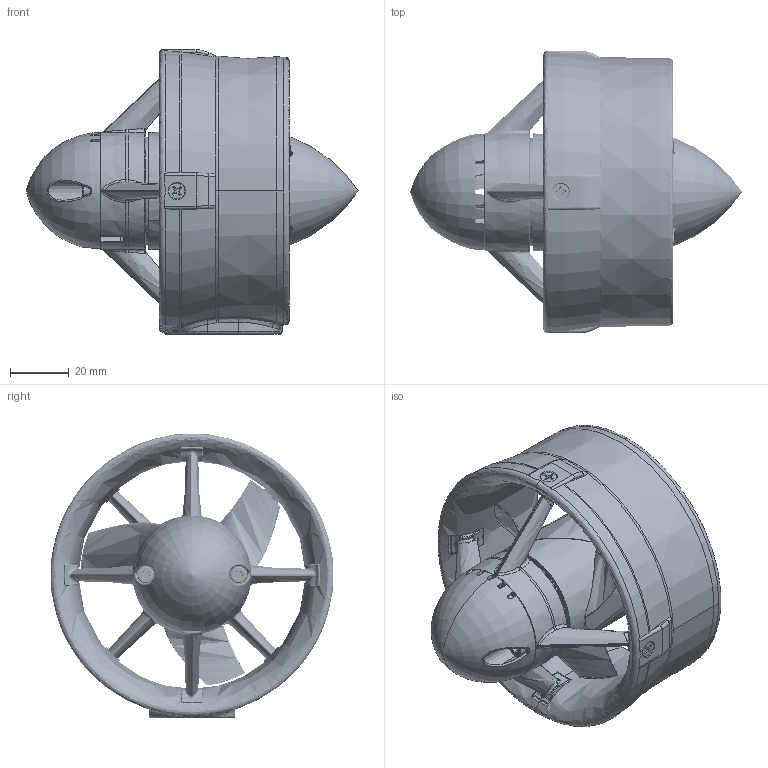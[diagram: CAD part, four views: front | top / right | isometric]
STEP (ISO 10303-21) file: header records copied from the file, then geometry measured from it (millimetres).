
FILE_DESCRIPTION (( 'STEP AP214' ), '1' );
FILE_NAME ('T200.STEP', '2025-01-17T21:16:17', ( '' ), ( '' ), 'SwSTEP 2.0', 'SolidWorks 2024', '' );
FILE_SCHEMA (( 'AUTOMOTIVE_DESIGN' ));
Length unit declared in the file: millimetre
Products named in the file (19): M3X0.5-5-SS316-BUTTON-HEAD-CAP-SCREW.STEP; T200-CORE_T200-CORE-STD.STEP; T200; T200-ELEC-WIRING-PCB-R3.STEP; T200-NOZZLE-0.STEP; T200-ASM-STATOR-POTTED-R1B.STEP; M3X0.5-8-SS316-SOCKET-HEAD-CAP-SCREW.STEP; M4X0.7-4-SS316-CUP-POINT-SET-SCREW_92029A140.STEP; T200 Overmold R1B.STEP; T200-ORING-STATOR-BASE_Public - 1.STEP; M6X1-8-SS316-HEX-THREADED-INSERT.STEP; THREADED-INSERT-M3X0.5-6-R1.STEP; M3X0.5-6-SS316-THREADED-INSERT.STEP; M3-12-SS316-FLAT-HEAD-PHILLIPS-SCREW_95844A250.STEP; T200.STEP; T200-NOZZLE.STEP; T200-ASM-STATOR-BASE-ORING_Pubilc .STEP; T200-NOSE-CONE.STEP; T200-P-PROPELLER-CW-R3_2xx.STEP
Assembly tree (26 placements, depth 5):
  T200
    T200.STEP
      T200-CORE_T200-CORE-STD.STEP
        T200-ASM-STATOR-BASE-ORING_Pubilc .STEP
          T200-ORING-STATOR-BASE_Public - 1.STEP
          THREADED-INSERT-M3X0.5-6-R1.STEP  x2
        T200-ASM-STATOR-POTTED-R1B.STEP
          T200 Overmold R1B.STEP
        T200-ELEC-WIRING-PCB-R3.STEP
      T200-NOZZLE.STEP
        T200-NOZZLE-0.STEP
        M3X0.5-6-SS316-THREADED-INSERT.STEP  x4
        M6X1-8-SS316-HEX-THREADED-INSERT.STEP
      T200-NOSE-CONE.STEP
      M4X0.7-4-SS316-CUP-POINT-SET-SCREW_92029A140.STEP
      T200-P-PROPELLER-CW-R3_2xx.STEP
      M3X0.5-5-SS316-BUTTON-HEAD-CAP-SCREW.STEP
      M3X0.5-8-SS316-SOCKET-HEAD-CAP-SCREW.STEP  x2
      M3-12-SS316-FLAT-HEAD-PHILLIPS-SCREW_95844A250.STEP  x4
Bounding box: 113.42 x 96.55 x 97.3 mm (x, y, z)
Volume: 172162 mm3; surface area: 77785.6 mm2
Topology: 21 solids, 23 shells, 3446 faces, 8867 edges, 5413 vertices
Faces by surface type: cylinder 1027, plane 875, bspline 709, cone 558, torus 213, sphere 64
Entity records: 124738 total; most frequent: CARTESIAN_POINT 73833, ORIENTED_EDGE 11814, DIRECTION 9078, EDGE_CURVE 5907, AXIS2_PLACEMENT_3D 3704, VERTEX_POINT 3616, EDGE_LOOP 2483, FACE_OUTER_BOUND 2374
